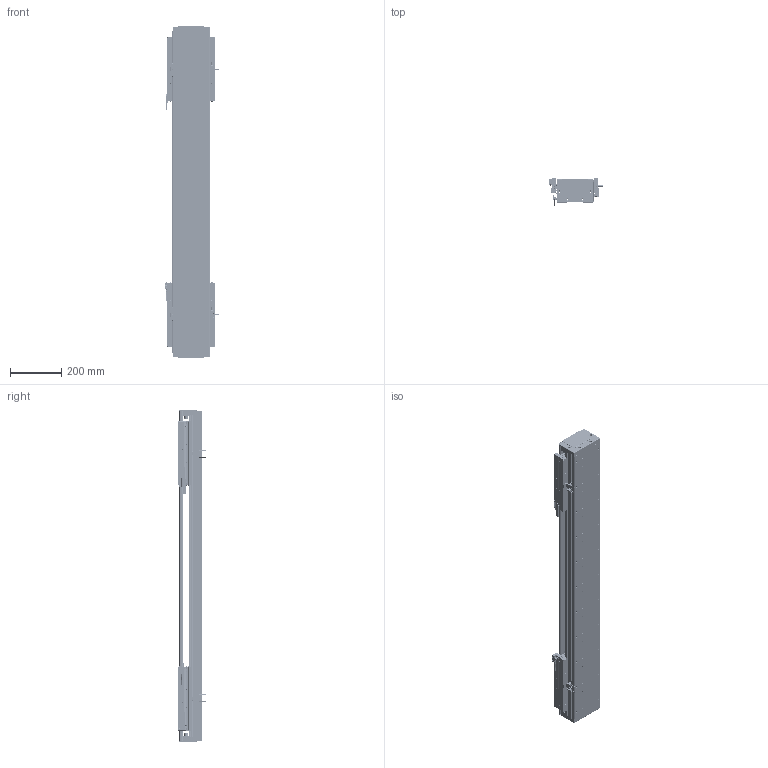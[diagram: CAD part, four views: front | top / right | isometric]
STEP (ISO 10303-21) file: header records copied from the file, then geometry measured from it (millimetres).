
FILE_DESCRIPTION (( 'STEP AP203' ), '1' );
FILE_NAME ('DA-C145-2-C3-T680-C010-0.2 眻盄萇儂.STEP', '2025-08-13T10:16:59', ( '' ), ( '' ), 'SwSTEP 2.0', 'SolidWorks 2019', '' );
FILE_SCHEMA (( 'CONFIG_CONTROL_DESIGN' ));
Length unit declared in the file: millimetre
Products named in the file (35): 复件 半圆头内六角螺钉 M3×6^CU145-W 滚珠滑台; 葩璃 DA145-C3-DP-A-00 菜えA^CU145-W 幗紩賑怢; 葩璃 PM-Y65^DA-C145-2-C3-T-C010-0.2; 复件 DA95-DB-00  挡板^CU145-W 滚珠滑台; IU-CU145-L-00 菁釱(L1260); CU145-W 幗紩賑怢-1; 复件 DA95-HK-GT-00 滑块钢轨^CU145-W-00 一体化滑动台板; 葩璃 DA145-T-003-00 裔啣^DA-C145-2-C3-T-C010-0.2; CU145-W-00 珨极趙賑雄怢啣-1; CU145-W 幗紩賑怢; 复件 DA145-C3-YB-B-00 压板B^CU145-W 滚珠滑台; CU145-W-00 珨极趙賑雄怢啣; 葩璃 DMA-010-0.2 黍杅芛^DA-C145-2-C3-T-C010-0.2; 葩璃 PM-T45^DA-C145-2-C3-T-C010-0.2; 复件 DA145-GYP-00 光电感应片^DA-C145-2-C3-T-C010-0.2; 复件 DA145-C3-YB-A-00 压板A^CU145-W 滚珠滑台; 葩璃 DA95-HXJ-00 遣喳砎蝶^DA-C145-2-C3-T-C010-0.2; 葩璃 CKM03-W060-C1C2-TP-0.2^DA-C145-2-C3-T-C010-0.2; IU-CU145-L 菁釱絳寢; DKW-KGZ-ZJ-00 中间光电开关支架; 复件 DA95-MFP-01 密封片^CU145-W 滚珠滑台; 66245-CU145-HT-W-00 賑雄怢啣(3D芞祧)(00); 葩璃 DA145-C3-DP-B-00 菜えB^CU145-W 幗紩賑怢; DA-C145-2-C3-T680-C010-0.2 眻盄萇儂; DKW168-HXJ-ZJ-00 笢潔滅袉砎蝶; 葩璃 DA95-GT-T-00^IU-CU145-L 菁釱絳寢; 葩璃 XD-U-02L 棠掑喜^DA-C145-2-C3-T-C010-0.2; 葩璃 CKMA01-W060-TRL^DA-C145-2-C3-T-C010-0.2; 复件 内六角平端紧定螺钉 GB.T77-2000 M5×10^CU145-W 滚珠滑台; TAY01-M8; DKW-GYP-ZJ-00 笢潔嫖萇覜茼え; 复件 DA145-C3-DK-00 挡块^CU145-W 滚珠滑台; 复件 纯铜油杯 6x6mm^CU145-W 滚珠滑台; 葩璃 DA145-DG-H-N-00 傷裔^DA-C145-2-C3-T-C010-0.2; 葩璃 鞠褒情蹟譫 M3^DA-C145-2-C3-T-C010-0.2
Assembly tree (175 placements, depth 4):
  DA-C145-2-C3-T680-C010-0.2 眻盄萇儂
    IU-CU145-L 菁釱絳寢
      IU-CU145-L-00 菁釱(L1260)
      葩璃 DA95-GT-T-00^IU-CU145-L 菁釱絳寢  x4
    CU145-W 幗紩賑怢
      CU145-W-00 珨极趙賑雄怢啣
        66245-CU145-HT-W-00 賑雄怢啣(3D芞祧)(00)
        复件 DA95-HK-GT-00 滑块钢轨^CU145-W-00 一体化滑动台板  x8
      复件 DA95-MFP-01 密封片^CU145-W 滚珠滑台  x8
      复件 DA95-DB-00  挡板^CU145-W 滚珠滑台  x8
      复件 内六角平端紧定螺钉 GB.T77-2000 M5×10^CU145-W 滚珠滑台  x4
      复件 纯铜油杯 6x6mm^CU145-W 滚珠滑台  x4
      复件 半圆头内六角螺钉 M3×6^CU145-W 滚珠滑台  x16
      复件 DA145-C3-DK-00 挡块^CU145-W 滚珠滑台  x4
      葩璃 DA145-C3-DP-B-00 菜えB^CU145-W 幗紩賑怢  x2
      复件 DA145-C3-YB-B-00 压板B^CU145-W 滚珠滑台  x2
      葩璃 DA145-C3-DP-A-00 菜えA^CU145-W 幗紩賑怢  x3
      复件 DA145-C3-YB-A-00 压板A^CU145-W 滚珠滑台  x3
      TAY01-M8  x4
    CU145-W 幗紩賑怢-1
      CU145-W-00 珨极趙賑雄怢啣-1
        66245-CU145-HT-W-00 賑雄怢啣(3D芞祧)(00)
        复件 DA95-HK-GT-00 滑块钢轨^CU145-W-00 一体化滑动台板  x8
      复件 DA95-MFP-01 密封片^CU145-W 滚珠滑台  x8
      复件 DA95-DB-00  挡板^CU145-W 滚珠滑台  x8
      复件 内六角平端紧定螺钉 GB.T77-2000 M5×10^CU145-W 滚珠滑台  x4
      复件 纯铜油杯 6x6mm^CU145-W 滚珠滑台  x4
      复件 半圆头内六角螺钉 M3×6^CU145-W 滚珠滑台  x16
      复件 DA145-C3-DK-00 挡块^CU145-W 滚珠滑台  x4
      葩璃 DA145-C3-DP-B-00 菜えB^CU145-W 幗紩賑怢  x2
      复件 DA145-C3-YB-B-00 压板B^CU145-W 滚珠滑台  x2
      葩璃 DA145-C3-DP-A-00 菜えA^CU145-W 幗紩賑怢  x3
      复件 DA145-C3-YB-A-00 压板A^CU145-W 滚珠滑台  x3
      TAY01-M8  x4
    葩璃 CKMA01-W060-TRL^DA-C145-2-C3-T-C010-0.2
    葩璃 PM-T45^DA-C145-2-C3-T-C010-0.2  x4
    葩璃 XD-U-02L 棠掑喜^DA-C145-2-C3-T-C010-0.2
    葩璃 DA145-DG-H-N-00 傷裔^DA-C145-2-C3-T-C010-0.2  x2
    葩璃 DA145-T-003-00 裔啣^DA-C145-2-C3-T-C010-0.2
    葩璃 DA95-HXJ-00 遣喳砎蝶^DA-C145-2-C3-T-C010-0.2  x4
    葩璃 CKM03-W060-C1C2-TP-0.2^DA-C145-2-C3-T-C010-0.2  x2
    葩璃 DMA-010-0.2 黍杅芛^DA-C145-2-C3-T-C010-0.2  x2
    复件 DA145-GYP-00 光电感应片^DA-C145-2-C3-T-C010-0.2  x2
    DKW-GYP-ZJ-00 笢潔嫖萇覜茼え
    DKW-KGZ-ZJ-00 中间光电开关支架
    葩璃 PM-Y65^DA-C145-2-C3-T-C010-0.2
    葩璃 鞠褒情蹟譫 M3^DA-C145-2-C3-T-C010-0.2  x8
    DKW168-HXJ-ZJ-00 笢潔滅袉砎蝶
Bounding box: 213.7 x 108.45 x 1300 mm (x, y, z)
Volume: 9977112 mm3; surface area: 2798056.7 mm2
Topology: 171 solids, 235 shells, 6971 faces, 18160 edges, 11139 vertices
Faces by surface type: plane 2934, cylinder 2749, cone 1120, torus 152, sphere 8, bspline 8
Entity records: 109699 total; most frequent: CARTESIAN_POINT 27734, DIRECTION 15519, ORIENTED_EDGE 15484, EDGE_CURVE 7742, AXIS2_PLACEMENT_3D 5637, VERTEX_POINT 4988, LINE 4245, VECTOR 4245
